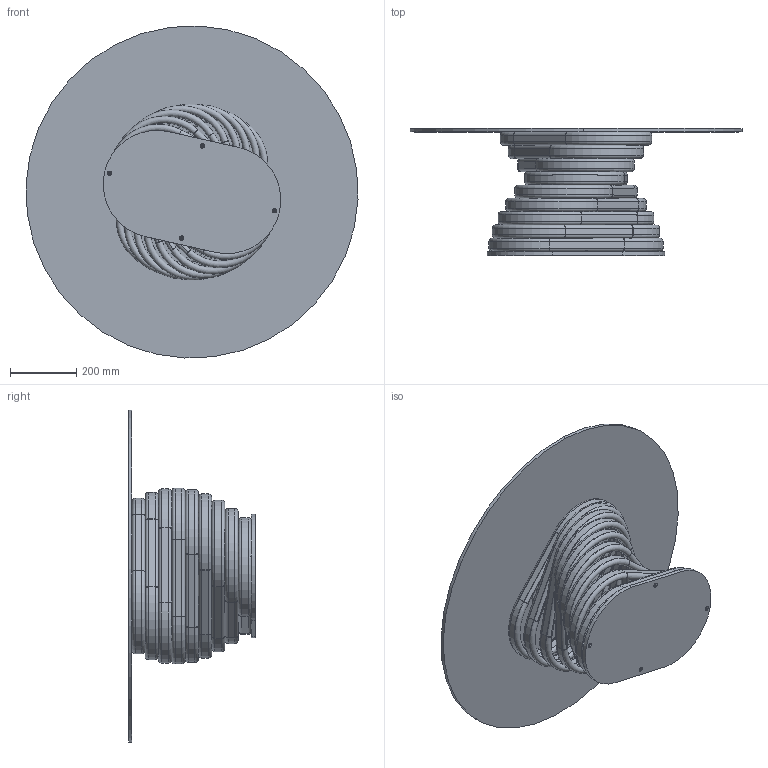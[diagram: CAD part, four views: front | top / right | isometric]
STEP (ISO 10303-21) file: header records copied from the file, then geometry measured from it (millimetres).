
FILE_DESCRIPTION (( 'STEP AP203' ), '1' );
FILE_NAME ('RL03G.STEP', '2024-08-06T12:36:13', ( '' ), ( '' ), 'SwSTEP 2.0', 'SolidWorks 2022', '' );
FILE_SCHEMA (( 'CONFIG_CONTROL_DESIGN' ));
Length unit declared in the file: millimetre
Products named in the file (9): C1XCRMXX-00-piani Rotondi Cristallo_C03 D.100cm; CXXCRXX-00-Piani Rotondi in Cristallo CON PIASTRA_C03P PIANO CRISTALLO D.100cm; RLB1000000-00-ROTOLO LOW 9 ANELLI; RLBP000000INF-00-ANELLO INFERIORE FILETTATO_Default<A macchina>; RLBP000000INT-00-ANELLO INTERMEDIO._Default<A macchina>; P0000003-00-STAFFA DI FISSAGGIO DIAMETRO 250_P0000003-250mm normale; RL03G; RLBP000000-00-ROTOLO LOW PIASTRA; RLBP000000SUP-00-ANELLO CON PIASTRA SUPERIORE_Default<A macchina>
Assembly tree (14 placements, depth 3):
  RL03G
    RLB1000000-00-ROTOLO LOW 9 ANELLI
      RLBP000000INF-00-ANELLO INFERIORE FILETTATO_Default<A macchina>
      RLBP000000INT-00-ANELLO INTERMEDIO._Default<A macchina>  x7
      RLBP000000SUP-00-ANELLO CON PIASTRA SUPERIORE_Default<A macchina>
    RLBP000000-00-ROTOLO LOW PIASTRA
    CXXCRXX-00-Piani Rotondi in Cristallo CON PIASTRA_C03P PIANO CRISTALLO D.100cm
      C1XCRMXX-00-piani Rotondi Cristallo_C03 D.100cm
      P0000003-00-STAFFA DI FISSAGGIO DIAMETRO 250_P0000003-250mm normale
Bounding box: 999.07 x 382 x 999.07 mm (x, y, z)
Volume: 12385177.7 mm3; surface area: 4412604 mm2
Topology: 41 solids, 41 shells, 454 faces, 1108 edges, 734 vertices
Faces by surface type: cylinder 194, plane 172, torus 72, cone 14, bspline 2
Entity records: 8023 total; most frequent: CARTESIAN_POINT 1887, DIRECTION 1110, ORIENTED_EDGE 992, EDGE_CURVE 496, AXIS2_PLACEMENT_3D 435, VERTEX_POINT 326, EDGE_LOOP 252, LINE 240
